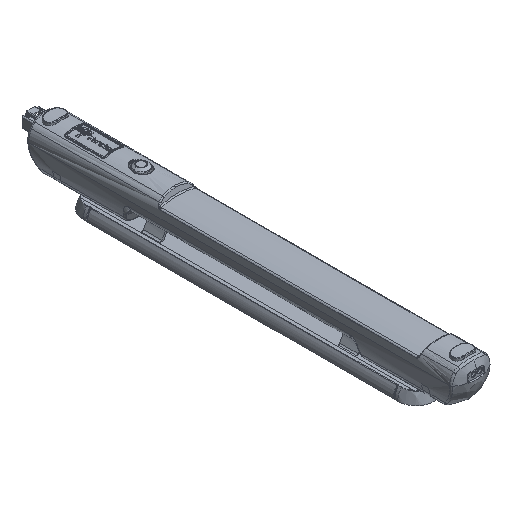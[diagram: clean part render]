
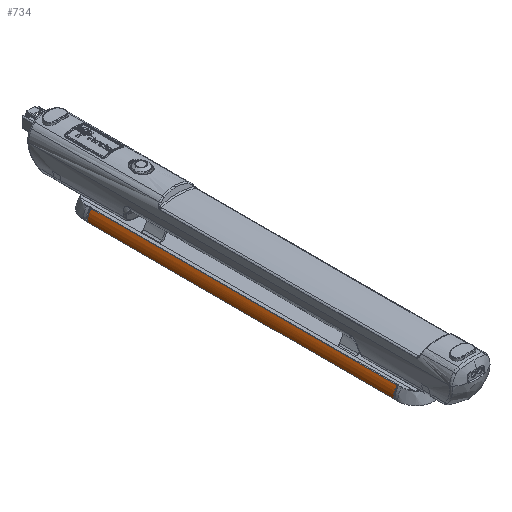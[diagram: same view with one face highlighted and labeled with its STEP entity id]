
A CAD part, isometric view. The second image highlights one B-rep face of the part: STEP entity #734.
In plain terms, the highlighted free-form (B-spline) face has degree [2, 1] with [9, 2] control points.
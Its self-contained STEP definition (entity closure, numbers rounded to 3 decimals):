
#734=ADVANCED_FACE('',(#1443),#11481,.T.);
#1443=FACE_OUTER_BOUND('',#2199,.T.);
#2199=EDGE_LOOP('',(#5694,#5695,#5696,#5697,#5698,#5699));
#5694=ORIENTED_EDGE('',*,*,#7639,.T.);
#5695=ORIENTED_EDGE('',*,*,#7636,.T.);
#5696=ORIENTED_EDGE('',*,*,#7640,.T.);
#5697=ORIENTED_EDGE('',*,*,#7643,.T.);
#5698=ORIENTED_EDGE('',*,*,#7644,.T.);
#5699=ORIENTED_EDGE('',*,*,#7642,.F.);
#7636=EDGE_CURVE('',#10737,#10736,#9559,.T.);
#7639=EDGE_CURVE('',#10738,#10737,#8285,.T.);
#7640=EDGE_CURVE('',#10736,#10739,#9561,.T.);
#7642=EDGE_CURVE('',#10738,#10740,#9562,.T.);
#7643=EDGE_CURVE('',#10739,#10741,#9563,.T.);
#7644=EDGE_CURVE('',#10741,#10740,#8287,.T.);
#8285=(
BOUNDED_CURVE()
B_SPLINE_CURVE(2,(#44576,#44577,#44578),.UNSPECIFIED.,.F.,.F.)
B_SPLINE_CURVE_WITH_KNOTS((3,3),(0.,8.769),.UNSPECIFIED.)
CURVE()
GEOMETRIC_REPRESENTATION_ITEM()
RATIONAL_B_SPLINE_CURVE((1.,0.958,1.))
REPRESENTATION_ITEM('')
);
#8287=(
BOUNDED_CURVE()
B_SPLINE_CURVE(2,(#44599,#44600,#44601),.UNSPECIFIED.,.F.,.F.)
B_SPLINE_CURVE_WITH_KNOTS((3,3),(-8.769,0.),.UNSPECIFIED.)
CURVE()
GEOMETRIC_REPRESENTATION_ITEM()
RATIONAL_B_SPLINE_CURVE((1.,0.958,1.))
REPRESENTATION_ITEM('')
);
#9559=B_SPLINE_CURVE_WITH_KNOTS('',3,(#44559,#44560,#44561,#44562,#44563,
#44564,#44565,#44566,#44567,#44568),.UNSPECIFIED.,.F.,.F.,(4,2,2,2,4),(0.,
0.,0.,0.,0.),
 .UNSPECIFIED.);
#9561=B_SPLINE_CURVE_WITH_KNOTS('',1,(#44579,#44580),.UNSPECIFIED.,.F.,.F.,
(2,2),(0.,248.747),.UNSPECIFIED.);
#9562=B_SPLINE_CURVE_WITH_KNOTS('',1,(#44587,#44588),.UNSPECIFIED.,.F.,.F.,
(2,2),(0.,248.783),.UNSPECIFIED.);
#9563=B_SPLINE_CURVE_WITH_KNOTS('',3,(#44589,#44590,#44591,#44592,#44593,
#44594,#44595,#44596,#44597,#44598),.UNSPECIFIED.,.F.,.F.,(4,2,2,2,4),(0.,
0.,0.,0.,0.),
 .UNSPECIFIED.);
#10736=VERTEX_POINT('',#42947);
#10737=VERTEX_POINT('',#42948);
#10738=VERTEX_POINT('',#42949);
#10739=VERTEX_POINT('',#42950);
#10740=VERTEX_POINT('',#42951);
#10741=VERTEX_POINT('',#42952);
#11481=(
BOUNDED_SURFACE()
B_SPLINE_SURFACE(2,1,((#40778,#40779),(#40780,#40781),(#40782,#40783),(#40784,
#40785),(#40786,#40787),(#40788,#40789),(#40790,#40791),(#40792,#40793),
(#40794,#40795)),.UNSPECIFIED.,.T.,.F.,.F.)
B_SPLINE_SURFACE_WITH_KNOTS((3,2,2,2,3),(2,2),(0.,1.571,3.142,
4.712,6.283),(0.,298.54),.UNSPECIFIED.)
GEOMETRIC_REPRESENTATION_ITEM()
RATIONAL_B_SPLINE_SURFACE(((1.,1.),(0.707,0.707),
(1.,1.),(0.707,0.707),(1.,1.),(0.707,
0.707),(1.,1.),(0.707,0.707),(1.,1.)))
REPRESENTATION_ITEM('')
SURFACE()
);
#40778=CARTESIAN_POINT('',(-0.006,-149.27,14.56));
#40779=CARTESIAN_POINT('',(-0.006,149.27,14.56));
#40780=CARTESIAN_POINT('',(14.994,-149.27,14.56));
#40781=CARTESIAN_POINT('',(14.994,149.27,14.56));
#40782=CARTESIAN_POINT('',(14.994,-149.27,-0.44));
#40783=CARTESIAN_POINT('',(14.994,149.27,-0.44));
#40784=CARTESIAN_POINT('',(14.994,-149.27,-15.44));
#40785=CARTESIAN_POINT('',(14.994,149.27,-15.44));
#40786=CARTESIAN_POINT('',(-0.006,-149.27,-15.44));
#40787=CARTESIAN_POINT('',(-0.006,149.27,-15.44));
#40788=CARTESIAN_POINT('',(-15.006,-149.27,-15.44));
#40789=CARTESIAN_POINT('',(-15.006,149.27,-15.44));
#40790=CARTESIAN_POINT('',(-15.006,-149.27,-0.44));
#40791=CARTESIAN_POINT('',(-15.006,149.27,-0.44));
#40792=CARTESIAN_POINT('',(-15.006,-149.27,14.56));
#40793=CARTESIAN_POINT('',(-15.006,149.27,14.56));
#40794=CARTESIAN_POINT('',(-0.006,-149.27,14.56));
#40795=CARTESIAN_POINT('',(-0.006,149.27,14.56));
#42947=CARTESIAN_POINT('',(-12.203,-124.373,8.291));
#42948=CARTESIAN_POINT('',(-12.267,-124.392,8.202));
#42949=CARTESIAN_POINT('',(-15.,-124.392,0.));
#42950=CARTESIAN_POINT('',(-12.203,124.373,8.291));
#42951=CARTESIAN_POINT('',(-15.,124.392,0.));
#42952=CARTESIAN_POINT('',(-12.267,124.392,8.202));
#44559=CARTESIAN_POINT('',(-12.267,-124.392,8.202));
#44560=CARTESIAN_POINT('',(-12.259,-124.392,8.213));
#44561=CARTESIAN_POINT('',(-12.253,-124.391,8.221));
#44562=CARTESIAN_POINT('',(-12.244,-124.39,8.234));
#44563=CARTESIAN_POINT('',(-12.24,-124.389,8.239));
#44564=CARTESIAN_POINT('',(-12.231,-124.387,8.252));
#44565=CARTESIAN_POINT('',(-12.227,-124.385,8.258));
#44566=CARTESIAN_POINT('',(-12.214,-124.38,8.276));
#44567=CARTESIAN_POINT('',(-12.209,-124.377,8.284));
#44568=CARTESIAN_POINT('',(-12.203,-124.373,8.291));
#44576=CARTESIAN_POINT('',(-15.,-124.392,0.));
#44577=CARTESIAN_POINT('',(-14.867,-124.392,4.512));
#44578=CARTESIAN_POINT('',(-12.267,-124.392,8.202));
#44579=CARTESIAN_POINT('',(-12.203,-124.373,8.291));
#44580=CARTESIAN_POINT('',(-12.203,124.373,8.291));
#44587=CARTESIAN_POINT('',(-15.,-124.392,0.));
#44588=CARTESIAN_POINT('',(-15.,124.392,0.));
#44589=CARTESIAN_POINT('',(-12.203,124.373,8.291));
#44590=CARTESIAN_POINT('',(-12.209,124.377,8.284));
#44591=CARTESIAN_POINT('',(-12.214,124.38,8.276));
#44592=CARTESIAN_POINT('',(-12.227,124.385,8.258));
#44593=CARTESIAN_POINT('',(-12.231,124.387,8.252));
#44594=CARTESIAN_POINT('',(-12.24,124.389,8.239));
#44595=CARTESIAN_POINT('',(-12.244,124.39,8.234));
#44596=CARTESIAN_POINT('',(-12.253,124.391,8.221));
#44597=CARTESIAN_POINT('',(-12.259,124.392,8.213));
#44598=CARTESIAN_POINT('',(-12.267,124.392,8.202));
#44599=CARTESIAN_POINT('',(-12.267,124.392,8.202));
#44600=CARTESIAN_POINT('',(-14.867,124.392,4.512));
#44601=CARTESIAN_POINT('',(-15.,124.392,0.));
